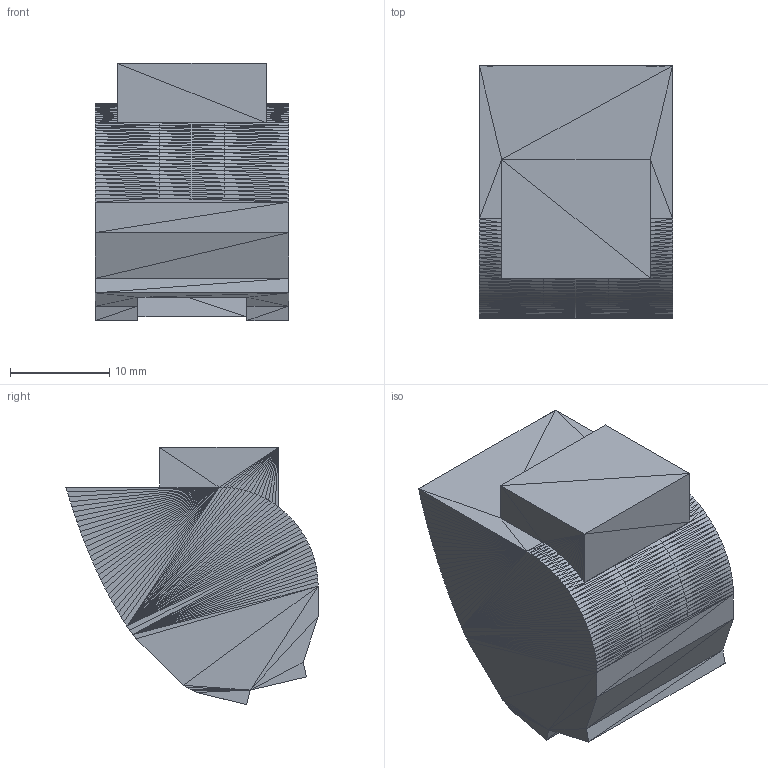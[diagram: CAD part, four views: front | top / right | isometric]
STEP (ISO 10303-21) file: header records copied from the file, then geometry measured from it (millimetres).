
FILE_DESCRIPTION((''),'2;1');
FILE_NAME('Index Finger P2 Inner', '2025-03-27T07:45:20', (''), (''), 'ImageToStl.com STEP Converter','', '');
FILE_SCHEMA(('AUTOMOTIVE_DESIGN_CC2'));
Length unit declared in the file: metre
Products named in the file (1): product0
Bounding box: 19.5 x 25.46 x 25.96 mm (x, y, z)
Surface area: 2669.5 mm2 (no closed solid volume)
Topology: 0 solids, 674 shells, 674 faces, 2022 edges, 339 vertices
Faces by surface type: plane 674
Entity records: 16215 total; most frequent: DIRECTION 3372, ORIENTED_EDGE 2022, EDGE_CURVE 2022, LINE 2022, VECTOR 2022, AXIS2_PLACEMENT_3D 675, STYLED_ITEM 675, FACE_SURFACE 674
